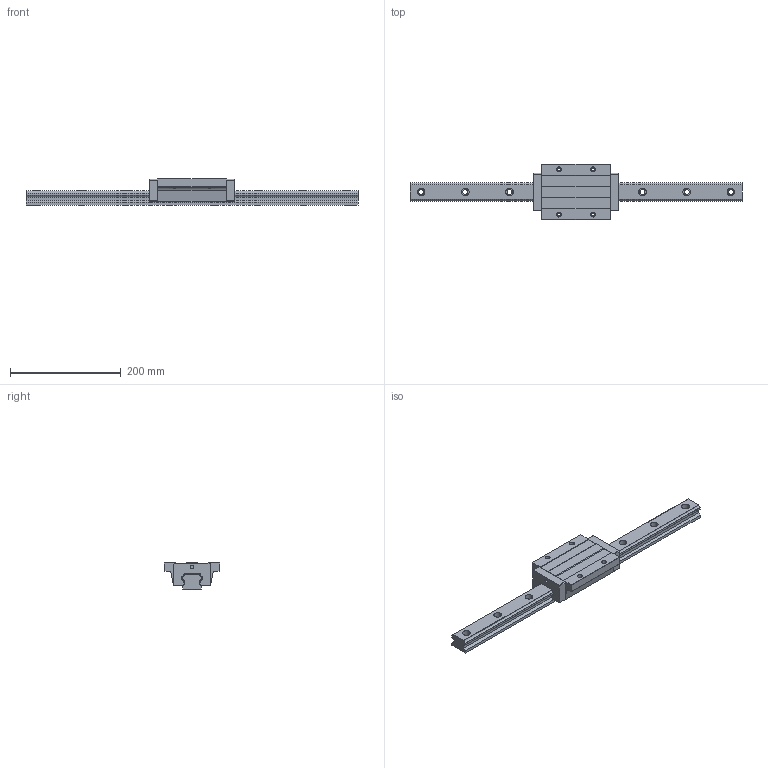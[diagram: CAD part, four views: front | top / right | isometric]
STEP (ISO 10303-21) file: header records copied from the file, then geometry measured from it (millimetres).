
FILE_DESCRIPTION (( 'STEP AP203' ), '1' );
FILE_NAME ('TRH35FE-XN.STEP', '2023-01-30T03:49:55', ( '' ), ( '' ), 'SwSTEP 2.0', 'SolidWorks 2019', '' );
FILE_SCHEMA (( 'CONFIG_CONTROL_DESIGN' ));
Length unit declared in the file: millimetre
Products named in the file (1): TRH35FE-XN
Bounding box: 600 x 100 x 48 mm (x, y, z)
Volume: 828926.6 mm3; surface area: 143686 mm2
Topology: 4 solids, 4 shells, 170 faces, 460 edges, 304 vertices
Faces by surface type: plane 96, cylinder 74
Entity records: 5843 total; most frequent: CARTESIAN_POINT 1291, DIRECTION 942, ORIENTED_EDGE 920, EDGE_CURVE 460, AXIS2_PLACEMENT_3D 319, VECTOR 304, VERTEX_POINT 304, LINE 304
